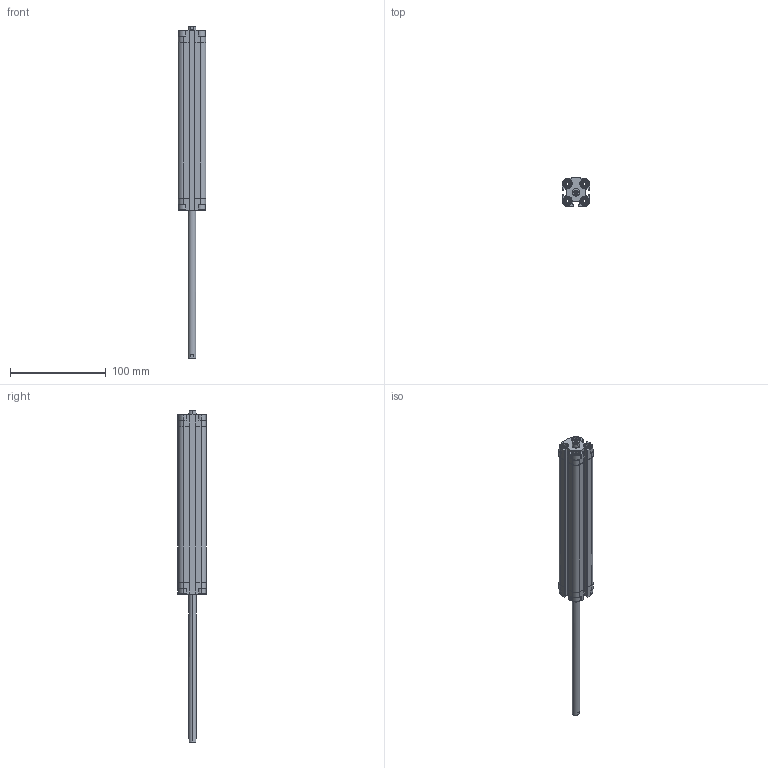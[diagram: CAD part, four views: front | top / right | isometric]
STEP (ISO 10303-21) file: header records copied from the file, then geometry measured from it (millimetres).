
FILE_DESCRIPTION (( 'STEP AP203' ), '1' );
FILE_NAME ('CDVU16-150F-P.STEP', '2020-07-24T18:06:01', ( '' ), ( '' ), 'SwSTEP 2.0', 'SolidWorks 2019', '' );
FILE_SCHEMA (( 'CONFIG_CONTROL_DESIGN' ));
Length unit declared in the file: millimetre
Products named in the file (1): CDVU16-150F-P
Bounding box: 29 x 30 x 347 mm (x, y, z)
Volume: 101460 mm3; surface area: 62085.1 mm2
Topology: 2 solids, 2 shells, 566 faces, 1508 edges, 980 vertices
Faces by surface type: plane 338, cylinder 164, cone 48, torus 16
Entity records: 17779 total; most frequent: CARTESIAN_POINT 3623, ORIENTED_EDGE 3000, DIRECTION 2850, EDGE_CURVE 1500, VERTEX_POINT 980, AXIS2_PLACEMENT_3D 975, LINE 900, VECTOR 900
